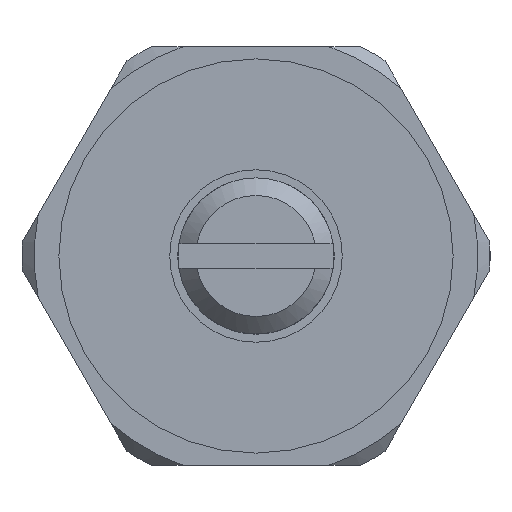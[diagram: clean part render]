
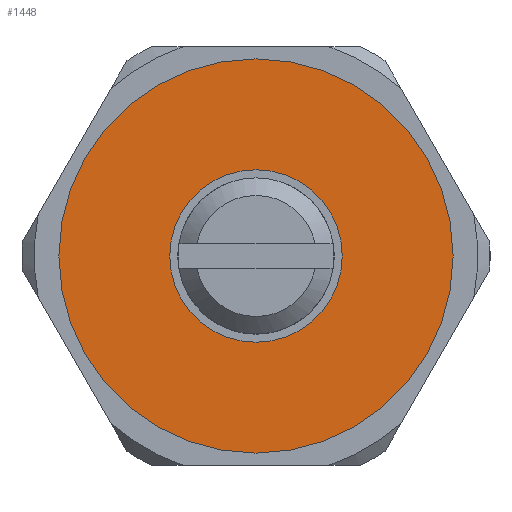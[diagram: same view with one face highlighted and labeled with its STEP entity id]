
A CAD part, left-side view. The second image highlights one B-rep face of the part: STEP entity #1448.
In plain terms, the highlighted planar face has unit normal (-1, 0, 0).
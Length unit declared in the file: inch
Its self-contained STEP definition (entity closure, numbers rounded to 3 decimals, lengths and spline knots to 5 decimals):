
#74=FACE_BOUND('',#243,.T.);
#100=PLANE('',#1593);
#160=FACE_OUTER_BOUND('',#242,.T.);
#242=EDGE_LOOP('',(#1091,#1092));
#243=EDGE_LOOP('',(#1093,#1094));
#434=CIRCLE('',#1521,0.1378);
#435=CIRCLE('',#1522,0.1378);
#470=CIRCLE('',#1591,0.31496);
#471=CIRCLE('',#1592,0.31496);
#545=VERTEX_POINT('',#2167);
#546=VERTEX_POINT('',#2168);
#605=VERTEX_POINT('',#2402);
#606=VERTEX_POINT('',#2403);
#691=EDGE_CURVE('',#545,#546,#434,.T.);
#692=EDGE_CURVE('',#546,#545,#435,.T.);
#784=EDGE_CURVE('',#605,#606,#470,.T.);
#785=EDGE_CURVE('',#606,#605,#471,.T.);
#1091=ORIENTED_EDGE('',*,*,#784,.T.);
#1092=ORIENTED_EDGE('',*,*,#785,.T.);
#1093=ORIENTED_EDGE('',*,*,#691,.T.);
#1094=ORIENTED_EDGE('',*,*,#692,.T.);
#1448=ADVANCED_FACE('',(#160,#74),#100,.T.);
#1521=AXIS2_PLACEMENT_3D('',#2169,#1722,#1723);
#1522=AXIS2_PLACEMENT_3D('',#2170,#1724,#1725);
#1591=AXIS2_PLACEMENT_3D('',#2404,#1895,#1896);
#1592=AXIS2_PLACEMENT_3D('',#2405,#1897,#1898);
#1593=AXIS2_PLACEMENT_3D('',#2407,#1900,#1901);
#1722=DIRECTION('center_axis',(1.,0.,0.));
#1723=DIRECTION('ref_axis',(0.,0.,1.));
#1724=DIRECTION('center_axis',(1.,0.,0.));
#1725=DIRECTION('ref_axis',(0.,0.,1.));
#1895=DIRECTION('center_axis',(-1.,0.,0.));
#1896=DIRECTION('ref_axis',(0.,0.,1.));
#1897=DIRECTION('center_axis',(-1.,0.,0.));
#1898=DIRECTION('ref_axis',(0.,0.,1.));
#1900=DIRECTION('center_axis',(-1.,0.,0.));
#1901=DIRECTION('ref_axis',(0.,0.,1.));
#2167=CARTESIAN_POINT('',(-2.21862,-0.42833,0.56421));
#2168=CARTESIAN_POINT('',(-2.21862,-0.42833,0.28862));
#2169=CARTESIAN_POINT('Origin',(-2.21862,-0.42833,0.42641));
#2170=CARTESIAN_POINT('Origin',(-2.21862,-0.42833,0.42641));
#2402=CARTESIAN_POINT('',(-2.21862,-0.42833,0.74137));
#2403=CARTESIAN_POINT('',(-2.21862,-0.42833,0.11145));
#2404=CARTESIAN_POINT('Origin',(-2.21862,-0.42833,0.42641));
#2405=CARTESIAN_POINT('Origin',(-2.21862,-0.42833,0.42641));
#2407=CARTESIAN_POINT('Origin',(-2.21862,-0.42833,0.42641));
